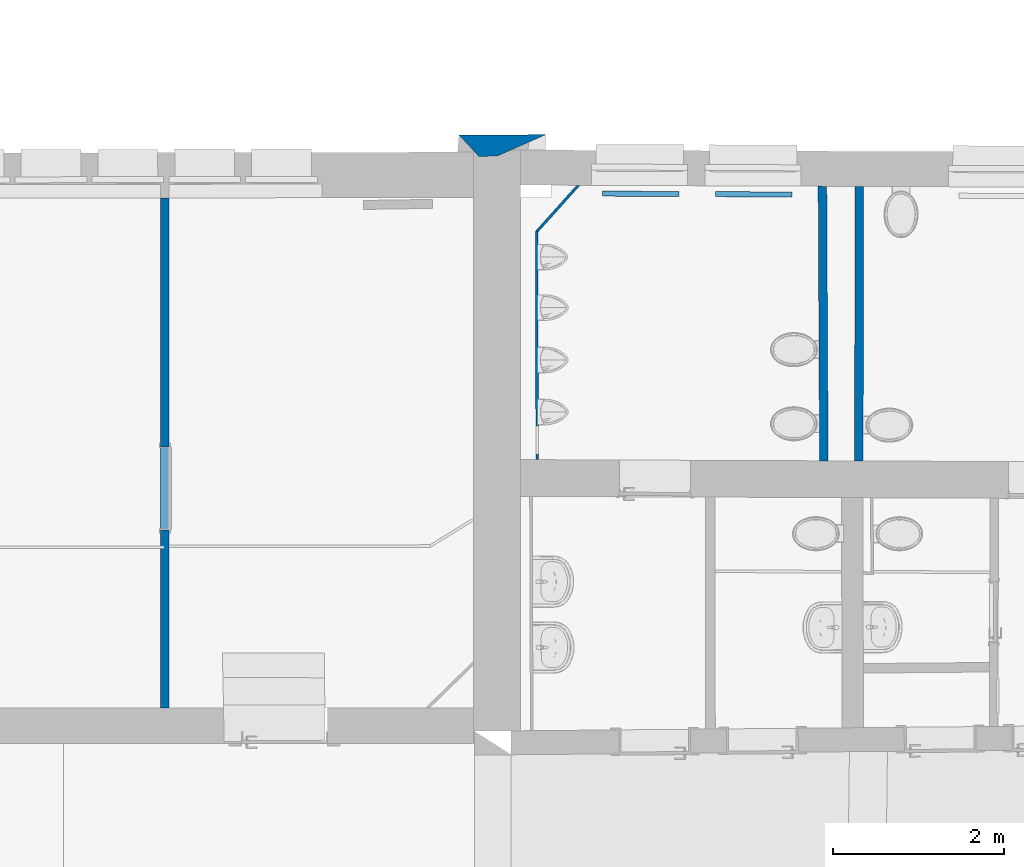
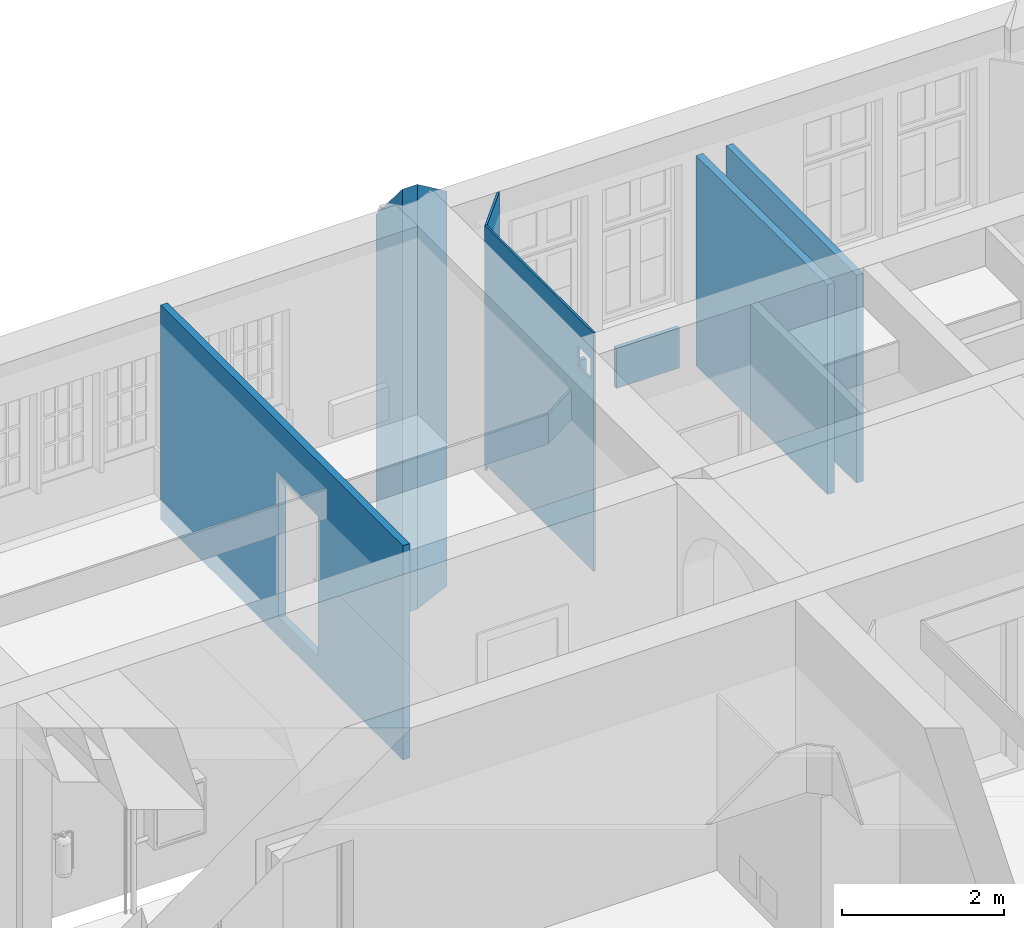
# One storey, part 41 of 158: 8 walls, 2 openings.
"""IFC2X3 building model written with IfcOpenShell, lengths in metres."""

from ifc_helpers import new_model, entity, si_unit, converted_unit, derived_unit, money_unit, direction, frame, origin_with_axes, origin_2d_with_axis, place, context, subcontext, project, spatial, polyline, rectangle, outline, extrude, clip, halfspace, material, layer, layer_set, layer_usage, type_object, element, save


model = new_model("IFC2X3")

# Units and contexts
model_context = context("Model", 3, precision=1e-05, world=origin_with_axes(), true_north=direction((0.0, 1.0)))
body_context = subcontext(model_context, "Body", "Model", "MODEL_VIEW")
ifc_project = project(units=[si_unit("LENGTHUNIT", "METRE"), si_unit("AREAUNIT", "SQUARE_METRE"), si_unit("VOLUMEUNIT", "CUBIC_METRE"), converted_unit("PLANEANGLEUNIT", "DEGREE", entity("IfcPlaneAngleMeasure", 0.0174532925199), si_unit("PLANEANGLEUNIT", "RADIAN"), dimensions=[0, 0, 0, 0, 0, 0, 0]), money_unit("EUR"), converted_unit("TIMEUNIT", "Year", entity("IfcTimeMeasure", 31556926.0), si_unit("TIMEUNIT", "SECOND"), dimensions=[0, 0, 1, 0, 0, 0, 0]), si_unit("MASSUNIT", "GRAM", prefix="KILO"), si_unit("THERMODYNAMICTEMPERATUREUNIT", "DEGREE_CELSIUS"), si_unit("LUMINOUSINTENSITYUNIT", "LUMEN"), si_unit("ENERGYUNIT", "JOULE", prefix="MEGA"), derived_unit("THERMALCONDUCTANCEUNIT", [(si_unit("POWERUNIT", "WATT"), 1), (si_unit("LENGTHUNIT", "METRE"), -1), (si_unit("THERMODYNAMICTEMPERATUREUNIT", "KELVIN"), -1)]), derived_unit("SPECIFICHEATCAPACITYUNIT", [(si_unit("ENERGYUNIT", "JOULE"), 1), (si_unit("MASSUNIT", "GRAM", prefix="KILO"), -1), (si_unit("THERMODYNAMICTEMPERATUREUNIT", "KELVIN"), -1)]), derived_unit("MASSDENSITYUNIT", [(si_unit("MASSUNIT", "GRAM", prefix="KILO"), 1), (si_unit("VOLUMEUNIT", "CUBIC_METRE"), -1)])], contexts=[model_context])

# Site, building, storey
site_placement = place(None, origin_with_axes())
site = spatial("IfcSite", under=ifc_project, at=site_placement, Name="Gelände", CompositionType="ELEMENT")
building_placement = place(site_placement, origin_with_axes())
building = spatial("IfcBuilding", under=site, at=building_placement, Name="Gebäude", CompositionType="ELEMENT")
storey_placement = place(building_placement, origin_with_axes())
storey = spatial("IfcBuildingStorey", under=building, at=storey_placement, Name="ERDGESCHOSS", CompositionType="ELEMENT", Elevation=0.0)

# Wall
ifc_material_1 = material(Name="05_ALLGEMEIN - TRAGENDE BAUTEILE")
ifc_layer_1 = layer(ifc_material_1, 0.250000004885, ventilated="UNKNOWN")
ifc_layer_set_1 = layer_set([ifc_layer_1], Name="05_ALLGEMEIN - TRAGENDE BAUTEILE 0.25")
ifc_layer_usage_1 = layer_usage(ifc_layer_set_1, "AXIS2", "NEGATIVE", 0.25)
wall_type_1 = type_object("IfcWallType", Name="05_ALLGEMEIN - TRAGENDE BAUTEILE 250", PredefinedType="ELEMENTEDWALL")
wall_1_placement = place(storey_placement, frame((13.3822148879, 26.4070749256, -2.55030771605), z_axis=(0.0, 0.0, 1.0), x_axis=(-0.999993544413, -0.00359320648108, 0.0)))
element("IfcWallStandardCase", 1, at=wall_1_placement, inside=storey, type_object=wall_type_1, material=ifc_layer_usage_1, Name="Wand-039", ObjectType="ELEMENTEDWALL", context=body_context, shape_type="Clipping", body=[
    clip(extrude(outline(polyline([(0.0, 0.0), (1.01460362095, 0.0), (0.784667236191, 0.25), (0.570582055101, 0.25), (0.0, 0.0)])), origin_with_axes(), (0.0, 0.0, 1.0), 6.469762), halfspace(frame((-0.0201578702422, -2.53141118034, 1.41841384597), z_axis=(0.00694671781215, 0.872363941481, -0.488807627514), x_axis=(0.0, 0.488819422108, 0.872384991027)), True)),
])

# Wall, opening
ifc_material_2 = material(Name="43_Gipskarton")
ifc_layer_2 = layer(ifc_material_2, 0.03, ventilated="UNKNOWN")
ifc_layer_set_2 = layer_set([ifc_layer_2], Name="43_Gipskarton 0.03")
ifc_layer_usage_2 = layer_usage(ifc_layer_set_2, "AXIS2", "NEGATIVE", 0.03)
wall_type_2 = type_object("IfcWallType", Name="43_Gipskarton 30", PredefinedType="ELEMENTEDWALL")
wall_2_placement = place(storey_placement, frame((13.298092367, 22.1728609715, 0.01), z_axis=(0.0, 0.0, 1.0), x_axis=(-0.00146747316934, 0.999998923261, 0.0)))
wall_2 = element("IfcWallStandardCase", 2, at=wall_2_placement, inside=storey, type_object=wall_type_2, material=ifc_layer_usage_2, Name="Wand-040", ObjectType="ELEMENTEDWALL", context=body_context, shape_type="SweptSolid", body=[
    extrude(outline(polyline([(0.430006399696, 0.0), (3.09420156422, 0.0), (3.10572213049, 0.03), (0.430170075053, 0.03), (0.430006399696, 0.0)])), origin_with_axes(), (0.0, 0.0, 1.0), 3.59),
])
opening_1_placement = place(wall_2_placement, frame((0.659337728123, 0.0, 2.85684366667), z_axis=(0.0, 0.0, 1.0), x_axis=(1.0, 0.0, 0.0)))
element("IfcOpeningElement", 3, at=opening_1_placement, cuts=wall_2, Name="Tür-022", context=body_context, shape_type="SweptSolid", body=[
    extrude(rectangle(XDim=0.304081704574, YDim=0.300507, at=origin_2d_with_axis()), frame((0.0, -0.03, 0.1502535), z_axis=(0.0, 1.0, 0.0), x_axis=(-1.0, 0.0, 0.0)), (0.0, 0.0, 1.0), 0.09),
])

# Wall
ifc_layer_usage_3 = layer_usage(ifc_layer_set_2, "AXIS2", "NEGATIVE", 0.03)
wall_3_placement = place(storey_placement, frame((13.2935517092, 25.267059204, -0.092576), z_axis=(0.0, 0.0, 1.0), x_axis=(0.668240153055, 0.743945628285, 0.0)))
element("IfcWallStandardCase", 4, at=wall_3_placement, inside=storey, type_object=wall_type_2, material=ifc_layer_usage_3, Name="Wand-040", ObjectType="ELEMENTEDWALL", context=body_context, shape_type="SweptSolid", body=[
    extrude(outline(polyline([(0.0, 0.0), (0.73602252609, 0.0), (0.709287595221, 0.03), (-0.0115205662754, 0.03), (0.0, 0.0)])), origin_with_axes(), (0.0, 0.0, 1.0), 3.692576),
])

# Wall, opening
ifc_layer_3 = layer(ifc_material_2, 0.1, ventilated="UNKNOWN")
ifc_layer_set_3 = layer_set([ifc_layer_3], Name="43_Gipskarton 0.1")
ifc_layer_usage_4 = layer_usage(ifc_layer_set_3, "AXIS2", "NEGATIVE", 0.0)
wall_type_3 = type_object("IfcWallType", Name="43_Gipskarton 100", PredefinedType="ELEMENTEDWALL")
wall_4_placement = place(storey_placement, frame((8.97609706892, 26.1968101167, 0.475), z_axis=(0.0, 0.0, 1.0), x_axis=(-0.000177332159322, -0.999999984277, 0.0)))
wall_4 = element("IfcWallStandardCase", 5, at=wall_4_placement, inside=storey, type_object=wall_type_3, material=ifc_layer_usage_4, Name="Wand-039", ObjectType="ELEMENTEDWALL", context=body_context, shape_type="SweptSolid", body=[
    extrude(outline(polyline([(0.530185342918, -0.1), (6.50207929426, -0.1), (6.50203244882, 0.0), (0.530000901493, 0.0), (0.530185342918, -0.1)])), origin_with_axes(), (0.0, 0.0, 1.0), 3.225),
])
opening_2_placement = place(wall_4_placement, frame((3.92877805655, 0.0, 0.288706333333), z_axis=(0.0, 0.0, 1.0), x_axis=(1.0, 0.0, 0.0)))
element("IfcOpeningElement", 6, at=opening_2_placement, cuts=wall_4, Name="Tür-022", context=body_context, shape_type="SweptSolid", body=[
    extrude(rectangle(XDim=0.970880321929, YDim=2.115749, at=origin_2d_with_axis()), frame((0.0, 0.1, 1.0578745), z_axis=(0.0, 1.0, 0.0), x_axis=(-1.0, 0.0, 0.0)), (0.0, 0.0, -1.0), 0.3),
])

# Walls
ifc_layer_usage_5 = layer_usage(ifc_layer_set_3, "AXIS2", "NEGATIVE", 0.1)
wall_5_placement = place(storey_placement, frame((16.5703335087, 26.2136819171, 0.01), z_axis=(0.0, 0.0, 1.0), x_axis=(0.00507464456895, -0.999987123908, 0.0)))
element("IfcWallStandardCase", 7, at=wall_5_placement, inside=storey, type_object=wall_type_3, material=ifc_layer_usage_5, Name="Wand-040", ObjectType="ELEMENTEDWALL", context=body_context, shape_type="SweptSolid", body=[
    extrude(outline(polyline([(0.410016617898, 0.0), (3.62398834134, 0.0), (3.62489466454, 0.1), (0.410916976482, 0.1), (0.410016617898, 0.0)])), origin_with_axes(), (0.0, 0.0, 1.0), 3.16),
])
ifc_layer_usage_6 = layer_usage(ifc_layer_set_3, "AXIS2", "NEGATIVE", 0.1)
wall_6_placement = place(storey_placement, frame((17.0991038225, 22.1577012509, 0.04), z_axis=(0.0, 0.0, 1.0), x_axis=(0.000856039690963, 0.999999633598, 0.0)))
element("IfcWallStandardCase", 8, at=wall_6_placement, inside=storey, type_object=wall_type_3, material=ifc_layer_usage_6, Name="Wand-040", ObjectType="ELEMENTEDWALL", context=body_context, shape_type="SweptSolid", body=[
    extrude(outline(polyline([(0.430002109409, 0.0), (3.64388920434, 0.0), (3.64419646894, 0.1), (0.430315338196, 0.1), (0.430002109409, 0.0)])), origin_with_axes(), (0.0, 0.0, 1.0), 3.13),
])
ifc_material_3 = material(Name="01_ALLGEMEIN - BAUTEIL")
ifc_layer_4 = layer(ifc_material_3, 0.06, ventilated="UNKNOWN")
ifc_layer_set_4 = layer_set([ifc_layer_4], Name="01_ALLGEMEIN - BAUTEIL 0.06")
ifc_layer_usage_7 = layer_usage(ifc_layer_set_4, "AXIS2", "NEGATIVE", 0.06)
wall_type_4 = type_object("IfcWallType", Name="01_ALLGEMEIN - BAUTEIL 60", PredefinedType="ELEMENTEDWALL")
wall_7_placement = place(storey_placement, frame((14.0464234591, 25.6871066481, 0.160348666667), z_axis=(0.0, 0.0, 1.0), x_axis=(0.999989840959, -0.00450754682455, 0.0)))
element("IfcWallStandardCase", 9, at=wall_7_placement, inside=storey, type_object=wall_type_4, material=ifc_layer_usage_7, Name="Wand-037", ObjectType="ELEMENTEDWALL", context=body_context, shape_type="SweptSolid", body=[
    extrude(outline(polyline([(0.0, 0.0), (0.896828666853, 0.0), (0.896828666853, 0.06), (0.0, 0.06), (0.0, 0.0)])), origin_with_axes(), (0.0, 0.0, 1.0), 0.599979),
])
ifc_layer_usage_8 = layer_usage(ifc_layer_set_4, "AXIS2", "NEGATIVE", 0.06)
wall_8_placement = place(storey_placement, frame((15.3714499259, 25.6811845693, 0.160348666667), z_axis=(0.0, 0.0, 1.0), x_axis=(0.99998689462, -0.00511962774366, 0.0)))
element("IfcWallStandardCase", 10, at=wall_8_placement, inside=storey, type_object=wall_type_4, material=ifc_layer_usage_8, Name="Wand-037", ObjectType="ELEMENTEDWALL", context=body_context, shape_type="SweptSolid", body=[
    extrude(outline(polyline([(0.0, 0.0), (0.895415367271, 0.0), (0.895415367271, 0.06), (0.0, 0.06), (0.0, 0.0)])), origin_with_axes(), (0.0, 0.0, 1.0), 0.599979),
])

save(model, "model.ifc")
